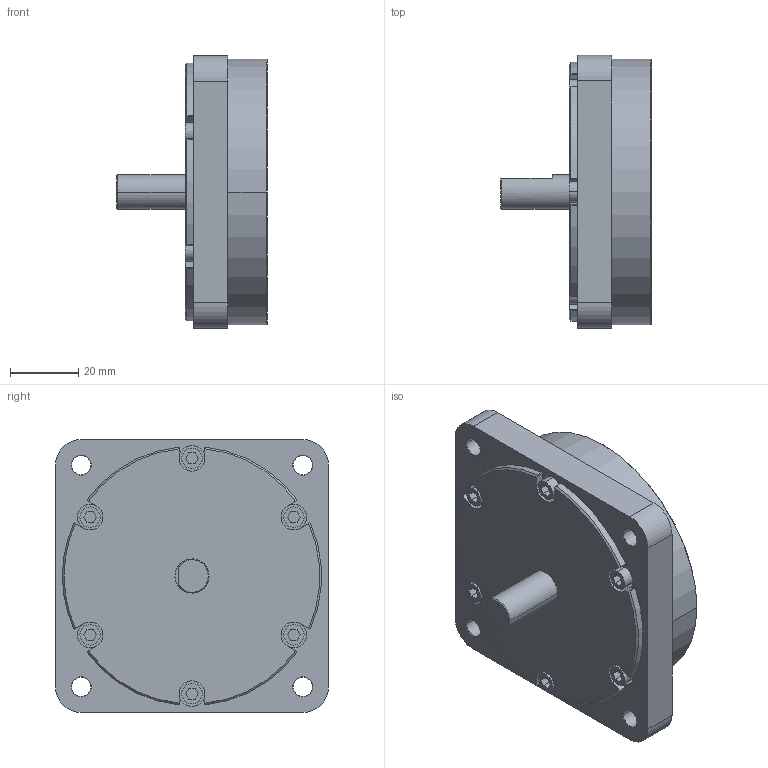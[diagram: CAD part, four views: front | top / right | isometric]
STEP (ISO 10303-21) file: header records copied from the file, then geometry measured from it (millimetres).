
FILE_DESCRIPTION (( 'STEP AP203' ), '1' );
FILE_NAME ('OCA-Z10V-C7Y-N.STEP', '2013-06-11T07:10:54', ( '' ), ( '' ), 'SwSTEP 2.0', 'SolidWorks 2006104', '' );
FILE_SCHEMA (( 'CONFIG_CONTROL_DESIGN' ));
Length unit declared in the file: millimetre
Products named in the file (1): OCA-Z10V-C7Y-N
Bounding box: 44 x 80 x 80 mm (x, y, z)
Volume: 127348.5 mm3; surface area: 23284.2 mm2
Topology: 7 solids, 7 shells, 186 faces, 462 edges, 305 vertices
Faces by surface type: plane 101, cylinder 59, cone 26
Entity records: 5669 total; most frequent: CARTESIAN_POINT 1032, DIRECTION 978, ORIENTED_EDGE 924, EDGE_CURVE 462, AXIS2_PLACEMENT_3D 355, VERTEX_POINT 305, VECTOR 268, LINE 268
